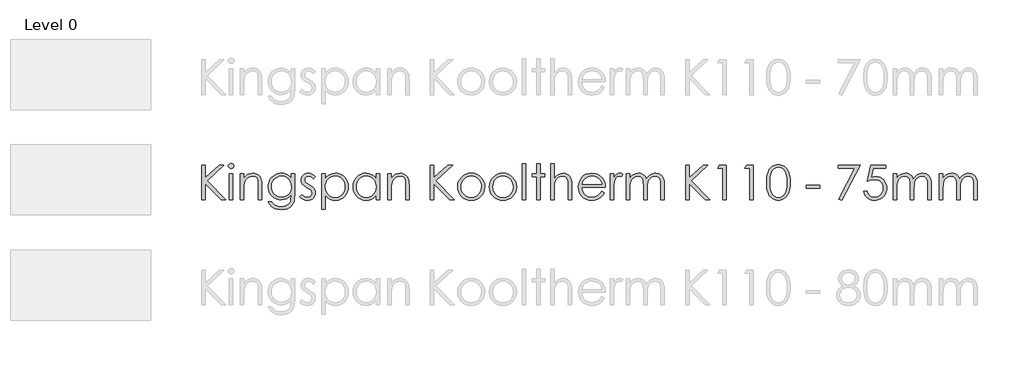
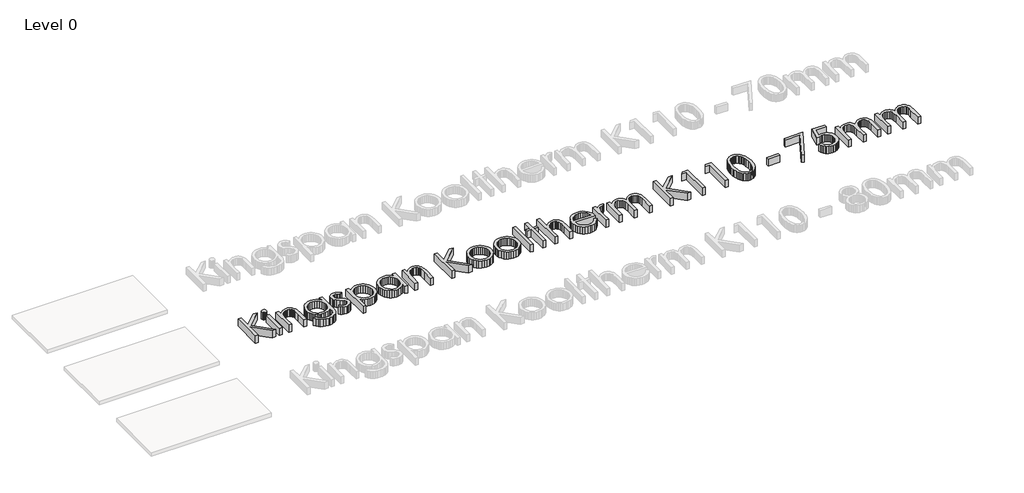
# One storey, part 7 of 9: 1 proxy.
"""IFC4 building model written with IfcOpenShell, lengths in millimetres."""

from ifc_helpers import new_model, si_unit, origin, origin_with_axes, place, context, project, spatial, polyline, outline, extrude, element, save

model = new_model("IFC4")

# Units and contexts
model_context = context("Model", 3, world=origin())
ifc_project = project(units=[si_unit("LENGTHUNIT", "METRE", prefix="MILLI")], contexts=[model_context])

# Site, building, storey
site = spatial("IfcSite", under=ifc_project)
building = spatial("IfcBuilding", under=site)
storey = spatial("IfcBuildingStorey", under=building, Name="Level 0", Elevation=0.0)

# Proxy
placement = place(None, origin())
element("IfcBuildingElementProxy", 1, Name="600mm KI_CenturyGothic", ObjectType="600mm KI_CenturyGothic", at=placement, inside=storey, context=model_context, shape_type="SweptSolid", body=[
    extrude(outline(polyline([(-3852.2663848, 2300.8965983), (-3792.944575, 2300.8965983), (-3792.944575, 2081.683973), (-3555.1938841, 2300.8965983), (-3471.6181051, 2300.8965983), (-3760.9664119, 2033.9484541), (-3441.9572002, 1707.6785001), (-3520.8984627, 1707.6785001), (-3792.944575, 1985.9039675), (-3792.944575, 1707.6785001), (-3852.2663848, 1707.6785001), (-3852.2663848, 2300.8965983)])), origin_with_axes(), (0.0, 0.0, 1.0), 150.0),
    extrude(outline(polyline([(-3348.1854852, 2330.5575033), (-3329.145347, 2327.2747208), (-3313.1176445, 2317.4263735), (-3302.226531, 2302.9821307), (-3298.5961598, 2285.911662), (-3302.226531, 2269.0729191), (-3313.1176445, 2254.7059183), (-3329.145347, 2244.857571), (-3348.1854852, 2241.5747885), (-3366.9938975, 2244.857571), (-3382.9443581, 2254.7059183), (-3393.8354717, 2269.0729191), (-3397.4658428, 2285.911662), (-3393.8354717, 2302.9821307), (-3382.9443581, 2317.4263735), (-3366.9938975, 2327.2747208), (-3348.1854852, 2330.5575033)])), origin_with_axes(), (0.0, 0.0, 1.0), 150.0),
    extrude(outline(polyline([(-3377.6919062, 2152.5920738), (-3318.3700964, 2152.5920738), (-3318.3700964, 1707.6785001), (-3377.6919062, 1707.6785001), (-3377.6919062, 2152.5920738)])), origin_with_axes(), (0.0, 0.0, 1.0), 150.0),
    extrude(outline(polyline([(-3189.8395084, 2152.5920738), (-3130.5176986, 2152.5920738), (-3130.5176986, 2073.4963274), (-3096.9946967, 2113.0055796), (-3060.0730495, 2140.696815), (-3019.7141359, 2157.0334853), (-2975.879335, 2162.4790421), (-2953.4357238, 2160.9004099), (-2932.2955704, 2156.1645135), (-2912.4588747, 2148.2713528), (-2893.9256368, 2137.2209277), (-2877.212412, 2123.4960006), (-2862.835756, 2107.5793333), (-2841.0921499, 2069.1707787), (-2833.6238199, 2044.7912914), (-2828.2892984, 2014.4448643), (-2824.0216812, 1935.8511905), (-2824.0216812, 1707.6785001), (-2883.343491, 1707.6785001), (-2883.343491, 1920.8662542), (-2883.343491, 2023.907002), (-2884.7290183, 2044.7043943), (-2889.8125035, 2062.7596977), (-2898.2849788, 2078.0729123), (-2910.1464442, 2090.644038), (-2924.7403432, 2100.4441091), (-2941.4101193, 2107.4441599), (-2980.977303, 2113.0442006), (-3005.3471351, 2110.8862539), (-3028.4038541, 2104.4124138), (-3050.1474602, 2093.6226803), (-3070.5779533, 2078.5170534), (-3088.6622225, 2060.2348518), (-3103.3671568, 2039.915394), (-3114.6927562, 2017.55868), (-3122.6390208, 1993.1647099), (-3128.5480292, 1946.0857475), (-3130.5176986, 1871.5858965), (-3130.5176986, 1707.6785001), (-3189.8395084, 1707.6785001), (-3189.8395084, 2152.5920738)])), origin_with_axes(), (0.0, 0.0, 1.0), 150.0),
    extrude(outline(polyline([(-2319.7862977, 2152.5920738), (-2260.4644879, 2152.5920738), (-2260.4644879, 1801.604699), (-2264.5196897, 1721.3503235), (-2269.588692, 1690.5500999), (-2276.6852953, 1665.9678526), (-2289.9371156, 1637.3545415), (-2307.2924139, 1612.2267729), (-2328.7511904, 1590.5845469), (-2354.3134448, 1572.4278634), (-2383.3226209, 1558.0656902), (-2415.122162, 1547.8069951), (-2449.7120682, 1541.651778), (-2487.0923395, 1539.6000389), (-2541.0458345, 1543.6166198), (-2589.206184, 1555.6663624), (-2630.260275, 1574.4940853), (-2662.8949946, 1598.8446068), (-2690.2000204, 1632.1938144), (-2715.2650299, 1678.0175952), (-2655.94322, 1678.0175952), (-2642.4355358, 1656.848476), (-2627.0933555, 1638.6048954), (-2609.9166791, 1623.2868532), (-2590.9055067, 1610.8943494), (-2569.7894914, 1601.3308318), (-2546.2982864, 1594.4997477), (-2492.1903075, 1589.0348805), (-2438.5071593, 1594.3645743), (-2415.083541, 1601.0266916), (-2393.93856, 1610.3536559), (-2359.6624492, 1634.3952097), (-2336.8567664, 1663.8823202), (-2329.3884364, 1682.5217658), (-2324.0539149, 1706.2302137), (-2319.7862977, 1768.8541165), (-2319.7862977, 1791.5632468), (-2354.757586, 1755.7809182), (-2396.6420279, 1729.3834852), (-2443.392712, 1713.1047464), (-2492.9627269, 1707.6785001), (-2522.4063889, 1709.5757553), (-2550.9521133, 1715.2675207), (-2578.5999001, 1724.7537964), (-2605.3497494, 1738.0345825), (-2630.1540674, 1754.5257366), (-2651.9652601, 1773.6431168), (-2670.7833277, 1795.3867228), (-2686.6082702, 1819.7565549), (-2699.1456025, 1846.0719183), (-2708.1008399, 1873.6521184), (-2713.4739824, 1902.4971553), (-2715.2650299, 1932.607029), (-2713.3967404, 1962.8955247), (-2707.7918722, 1992.1219437), (-2698.4504251, 2020.286286), (-2685.3723991, 2047.3885517), (-2668.9971079, 2072.5742517), (-2649.7638648, 2094.9888971), (-2627.67267, 2114.632488), (-2602.7235235, 2131.5050242), (-2575.9833294, 2145.056157), (-2548.5189922, 2154.7355376), (-2520.3305117, 2160.543166), (-2491.4178881, 2162.4790421), (-2444.5320306, 2157.5355579), (-2400.8903346, 2142.7051055), (-2359.6045177, 2116.1338782), (-2319.7862977, 2075.9680694), (-2319.7862977, 2152.5920738)]), holes=[polyline([(-2484.1571458, 2113.0442006), (-2529.0154023, 2107.0193293), (-2570.5908765, 2088.9447153), (-2606.2187212, 2060.2300242), (-2633.2340897, 2022.2849212), (-2650.2659375, 1978.0059792), (-2655.94322, 1930.2897708), (-2653.0080263, 1894.3770964), (-2644.2024452, 1861.7182387), (-2629.5264766, 1832.3131977), (-2608.9801206, 1806.1619734), (-2583.7606272, 1784.703197), (-2555.0652466, 1769.3754996), (-2522.8939786, 1760.1788811), (-2487.2468234, 1757.1133416), (-2451.3244937, 1760.154743), (-2419.1001219, 1769.2789472), (-2390.573708, 1784.4859541), (-2365.7452519, 1805.7757637), (-2345.6382095, 1832.0187128), (-2331.2760363, 1862.0851379), (-2322.6587323, 1895.975039), (-2319.7862977, 1933.6884162), (-2325.0773706, 1982.3894593), (-2340.9505892, 2025.6063246), (-2366.4983608, 2061.8327944), (-2400.8130926, 2089.5626508), (-2440.9982119, 2107.1738131), (-2484.1571458, 2113.0442006)])]), origin_with_axes(), (0.0, 0.0, 1.0), 150.0),
    extrude(outline(polyline([(-1904.5336289, 2101.3034257), (-1940.9918246, 2063.609359), (-1962.9575012, 2085.2371022), (-1984.6721416, 2100.6854902), (-2006.1357456, 2109.954523), (-2027.3483133, 2113.0442006), (-2052.181597, 2108.3710632), (-2073.2300256, 2094.3516511), (-2087.5970264, 2074.1142629), (-2092.3860267, 2050.787197), (-2088.4466878, 2029.2366958), (-2076.628671, 2008.7675817), (-2052.0657341, 1986.599145), (-2010.2006027, 1960.877579), (-1958.3326401, 1928.0111336), (-1939.8428507, 1912.1861912), (-1926.315856, 1896.7667689), (-1909.9791857, 1864.0934284), (-1904.5336289, 1827.5579908), (-1906.9474396, 1801.4115941), (-1914.1888714, 1777.3507299), (-1926.2579245, 1755.375398), (-1943.1545989, 1735.4855985), (-1963.6719892, 1718.9944443), (-1986.6031901, 1707.2150485), (-2011.9482016, 1700.147411), (-2039.7070237, 1697.7915318), (-2077.4397114, 1701.6729393), (-2113.3958344, 1713.3171617), (-2145.4512394, 1731.7972958), (-2171.4817731, 1756.1864383), (-2135.7959969, 1796.6612148), (-2114.0041146, 1775.0334717), (-2091.5749863, 1759.5850837), (-2068.5086121, 1750.3160509), (-2044.8049918, 1747.2263733), (-2013.637869, 1752.8650349), (-1987.4914724, 1769.7810198), (-1969.7644472, 1794.3439566), (-1963.8554388, 1822.9234744), (-1967.7561567, 1846.7139919), (-1979.4583106, 1867.7237995), (-2005.0253927, 1889.4287846), (-2050.2119275, 1916.2317378), (-2099.762632, 1946.8967879), (-2117.441381, 1962.0555186), (-2130.3890611, 1977.0983864), (-2146.3781427, 2009.2310334), (-2151.7078365, 2045.689229), (-2149.5305794, 2069.7356104), (-2142.9988078, 2091.6674937), (-2132.1125219, 2111.4848789), (-2116.8717217, 2129.187766), (-2098.309518, 2143.7526993), (-2077.4590218, 2154.1562231), (-2054.3202332, 2160.3983373), (-2028.8931521, 2162.4790421), (-1997.9481, 2158.6555661), (-1966.9064954, 2147.185138), (-1935.7683384, 2128.0677579), (-1904.5336289, 2101.3034257)])), origin_with_axes(), (0.0, 0.0, 1.0), 150.0),
    extrude(outline(polyline([(-1795.7769776, 2152.5920738), (-1736.4551678, 2152.5920738), (-1736.4551678, 2071.4880369), (-1700.9238754, 2111.7310876), (-1660.4490989, 2140.0788795), (-1614.9922173, 2156.8790014), (-1564.5146096, 2162.4790421), (-1520.0618732, 2158.2403906), (-1478.9305402, 2145.5244363), (-1441.1206107, 2124.331179), (-1406.6320845, 2094.6606189), (-1377.9077381, 2059.0231189), (-1357.3903478, 2019.929042), (-1345.0799137, 1977.3783884), (-1340.9764356, 1931.371158), (-1345.0412927, 1884.4708176), (-1357.235864, 1841.2491246), (-1377.5601494, 1801.706079), (-1406.014149, 1765.8416808), (-1440.2130179, 1736.0697406), (-1477.7719111, 1714.8040691), (-1518.6908288, 1702.0446661), (-1562.9697708, 1697.7915318), (-1612.6170277, 1703.256399), (-1658.0545988, 1719.6510008), (-1699.3211052, 1746.8980951), (-1736.4551678, 1784.92044), (-1736.4551678, 1549.4870072), (-1795.7769776, 1549.4870072), (-1795.7769776, 2152.5920738)]), holes=[polyline([(-1568.5311905, 2113.0442006), (-1602.5852307, 2109.7469353), (-1633.8392507, 2099.8551393), (-1662.2932503, 2083.3688128), (-1687.9472295, 2060.2879556), (-1709.1694525, 2032.3022353), (-1724.3281832, 2001.1013192), (-1733.4234216, 1966.6852074), (-1736.4551678, 1929.0538998), (-1731.048232, 1880.1983728), (-1714.8274246, 1836.5180558), (-1688.5265441, 1799.6736505), (-1652.8793888, 1771.3258586), (-1611.4390881, 1753.2512446), (-1567.7587711, 1747.2263733), (-1525.0632888, 1753.2898656), (-1485.0326535, 1771.4803424), (-1450.2544701, 1800.5812433), (-1423.3163435, 1839.3760076), (-1406.05277, 1884.0411593), (-1400.2982454, 1930.7532225), (-1405.9948385, 1977.6970114), (-1423.0846177, 2022.1304373), (-1449.8103289, 2060.4810605), (-1484.414718, 2089.1764411), (-1524.7157001, 2107.0772607), (-1568.5311905, 2113.0442006)])]), origin_with_axes(), (0.0, 0.0, 1.0), 150.0),
    extrude(outline(polyline([(-807.0801472, 2152.5920738), (-807.0801472, 1707.6785001), (-866.401957, 1707.6785001), (-866.401957, 1783.5300851), (-903.4780882, 1745.6815345), (-944.8797679, 1718.9558233), (-990.4525125, 1703.0826047), (-1040.0418379, 1697.7915318), (-1084.3159523, 1702.0446661), (-1125.2203871, 1714.8040691), (-1162.7551422, 1736.0697406), (-1196.9202178, 1765.8416808), (-1225.340424, 1801.706079), (-1245.6405713, 1841.2491246), (-1257.8206597, 1884.4708176), (-1261.8806892, 1931.371158), (-1257.7820388, 1977.3783884), (-1245.4860875, 2019.929042), (-1224.9928353, 2059.0231189), (-1196.3022822, 2094.6606189), (-1161.8475494, 2124.331179), (-1124.061758, 2145.5244363), (-1082.9449079, 2158.2403906), (-1038.4969991, 2162.4790421), (-987.7490446, 2156.8790014), (-942.0990581, 2140.0788795), (-921.2051134, 2127.3918909), (-901.6242816, 2111.7310876), (-866.401957, 2071.4880369), (-866.401957, 2152.5920738), (-807.0801472, 2152.5920738)]), holes=[polyline([(-1034.3259343, 2113.0442006), (-1078.1414247, 2107.0772607), (-1118.4424068, 2089.1764411), (-1153.0467959, 2060.4810605), (-1179.7725071, 2022.1304373), (-1196.8622863, 1977.6970114), (-1202.5588794, 1930.7532225), (-1196.8043548, 1884.0411593), (-1179.5407813, 1839.3760076), (-1152.6026548, 1800.5812433), (-1117.8244713, 1771.4803424), (-1077.6779731, 1753.2898656), (-1034.6349021, 1747.2263733), (-991.0125165, 1753.2512446), (-949.7460102, 1771.3258586), (-914.2726493, 1799.6736505), (-888.0297002, 1836.5180558), (-871.8088928, 1880.1983728), (-866.401957, 1929.0538998), (-869.4337032, 1966.6852074), (-878.5289416, 2001.1013192), (-893.6876723, 2032.3022353), (-914.9098953, 2060.2879556), (-940.5638746, 2083.3688128), (-969.0178742, 2099.8551393), (-1000.2718941, 2109.7469353), (-1034.3259343, 2113.0442006)])]), origin_with_axes(), (0.0, 0.0, 1.0), 150.0),
    extrude(outline(polyline([(-668.662591, 2152.5920738), (-609.3407811, 2152.5920738), (-609.3407811, 2073.4963274), (-575.8177792, 2113.0055796), (-538.896132, 2140.696815), (-498.5372184, 2157.0334853), (-454.7024175, 2162.4790421), (-432.2588064, 2160.9004099), (-411.1186529, 2156.1645135), (-391.2819572, 2148.2713528), (-372.7487193, 2137.2209277), (-356.0354946, 2123.4960006), (-341.6588385, 2107.5793333), (-319.9152324, 2069.1707787), (-312.4469024, 2044.7912914), (-307.1123809, 2014.4448643), (-302.8447637, 1935.8511905), (-302.8447637, 1707.6785001), (-362.1665735, 1707.6785001), (-362.1665735, 1920.8662542), (-362.1665735, 2023.907002), (-363.5521008, 2044.7043943), (-368.635586, 2062.7596977), (-377.1080613, 2078.0729123), (-388.9695267, 2090.644038), (-403.5634257, 2100.4441091), (-420.2332018, 2107.4441599), (-459.8003855, 2113.0442006), (-484.1702176, 2110.8862539), (-507.2269366, 2104.4124138), (-528.9705427, 2093.6226803), (-549.4010358, 2078.5170534), (-567.485305, 2060.2348518), (-582.1902393, 2039.915394), (-593.5158387, 2017.55868), (-601.4621033, 1993.1647099), (-607.3711117, 1946.0857475), (-609.3407811, 1871.5858965), (-609.3407811, 1707.6785001), (-668.662591, 1707.6785001), (-668.662591, 2152.5920738)])), origin_with_axes(), (0.0, 0.0, 1.0), 150.0),
    extrude(outline(polyline([(62.9730635, 2300.8965983), (122.2948734, 2300.8965983), (122.2948734, 2081.683973), (360.0455643, 2300.8965983), (443.6213432, 2300.8965983), (154.2730365, 2033.9484541), (473.2822481, 1707.6785001), (394.3409856, 1707.6785001), (122.2948734, 1985.9039675), (122.2948734, 1707.6785001), (62.9730635, 1707.6785001), (62.9730635, 2300.8965983)])), origin_with_axes(), (0.0, 0.0, 1.0), 150.0),
    extrude(outline(polyline([(760.1588128, 2162.4790421), (809.4681362, 2157.8541809), (854.3553585, 2143.9795975), (894.8204798, 2120.8552917), (930.8635, 2088.4812637), (957.7630055, 2053.2492839), (976.9769381, 2014.908316), (988.5052976, 1973.45836), (992.3480841, 1928.8994159), (988.283227, 1884.0846079), (976.0886558, 1842.1760279), (955.7643703, 1803.1736759), (927.3103707, 1767.0775519), (892.4742558, 1736.7649181), (853.0036246, 1715.1130368), (808.8984769, 1702.1219081), (760.1588128, 1697.7915318), (711.2839754, 1702.1219081), (667.0822753, 1715.1130368), (627.5537126, 1736.7649181), (592.6982872, 1767.0775519), (564.2442876, 1803.1736759), (543.9200022, 1842.1760279), (531.7254309, 1884.0846079), (527.6605738, 1928.8994159), (531.5033603, 1973.2652551), (543.0317198, 2014.5993482), (562.2456524, 2052.9016951), (589.145158, 2088.1722959), (625.2074886, 2120.6814974), (665.7305413, 2143.9023555), (710.7143161, 2157.8348705), (760.1588128, 2162.4790421)]), holes=[polyline([(760.004329, 2113.0442006), (725.7282181, 2109.6696933), (693.9624704, 2099.5461716), (664.7070856, 2082.6736353), (637.962064, 2059.0520846), (615.6584538, 2030.6415336), (599.7273037, 1999.4019965), (590.1686137, 1965.3334734), (586.9823836, 1928.4359643), (592.7948396, 1880.7004454), (610.2322075, 1836.3635719), (637.5758543, 1798.5729529), (673.1071466, 1770.4761972), (714.6439998, 1753.0388293), (760.004329, 1747.2263733), (805.3646581, 1753.0388293), (846.9015113, 1770.4761972), (882.4328037, 1798.5729529), (909.7764504, 1836.3635719), (927.2138183, 1880.7004454), (933.0262743, 1928.4359643), (929.8255614, 1965.3334734), (920.2234227, 1999.4019965), (904.2198583, 2030.6415336), (881.8148681, 2059.0520846), (854.9974321, 2082.6736353), (825.7565303, 2099.5461716), (794.0921625, 2109.6696933), (760.004329, 2113.0442006)])]), origin_with_axes(), (0.0, 0.0, 1.0), 150.0),
    extrude(outline(polyline([(1303.9420695, 2162.4790421), (1353.2513929, 2157.8541809), (1398.1386152, 2143.9795975), (1438.6037365, 2120.8552917), (1474.6467567, 2088.4812637), (1501.5462622, 2053.2492839), (1520.7601948, 2014.908316), (1532.2885543, 1973.45836), (1536.1313408, 1928.8994159), (1532.0664837, 1884.0846079), (1519.8719125, 1842.1760279), (1499.547627, 1803.1736759), (1471.0936274, 1767.0775519), (1436.2575126, 1736.7649181), (1396.7868813, 1715.1130368), (1352.6817336, 1702.1219081), (1303.9420695, 1697.7915318), (1255.0672321, 1702.1219081), (1210.865532, 1715.1130368), (1171.3369693, 1736.7649181), (1136.4815439, 1767.0775519), (1108.0275443, 1803.1736759), (1087.7032589, 1842.1760279), (1075.5086876, 1884.0846079), (1071.4438305, 1928.8994159), (1075.286617, 1973.2652551), (1086.8149766, 2014.5993482), (1106.0289091, 2052.9016951), (1132.9284147, 2088.1722959), (1168.9907453, 2120.6814974), (1209.5137981, 2143.9023555), (1254.4975728, 2157.8348705), (1303.9420695, 2162.4790421)]), holes=[polyline([(1303.7875857, 2113.0442006), (1269.5114748, 2109.6696933), (1237.7457271, 2099.5461716), (1208.4903423, 2082.6736353), (1181.7453207, 2059.0520846), (1159.4417105, 2030.6415336), (1143.5105604, 1999.4019965), (1133.9518704, 1965.3334734), (1130.7656404, 1928.4359643), (1136.5780963, 1880.7004454), (1154.0154643, 1836.3635719), (1181.359111, 1798.5729529), (1216.8904033, 1770.4761972), (1258.4272565, 1753.0388293), (1303.7875857, 1747.2263733), (1349.1479149, 1753.0388293), (1390.684768, 1770.4761972), (1426.2160604, 1798.5729529), (1453.5597071, 1836.3635719), (1470.997075, 1880.7004454), (1476.809531, 1928.4359643), (1473.6088181, 1965.3334734), (1464.0066795, 1999.4019965), (1448.003115, 2030.6415336), (1425.5981249, 2059.0520846), (1398.7806889, 2082.6736353), (1369.539787, 2099.5461716), (1337.8754193, 2109.6696933), (1303.7875857, 2113.0442006)])]), origin_with_axes(), (0.0, 0.0, 1.0), 150.0),
    extrude(outline(polyline([(1635.0010238, 2320.6705349), (1694.3228337, 2320.6705349), (1694.3228337, 1707.6785001), (1635.0010238, 1707.6785001), (1635.0010238, 2320.6705349)])), origin_with_axes(), (0.0, 0.0, 1.0), 150.0),
    extrude(outline(polyline([(1882.1752314, 2320.6705349), (1941.4970413, 2320.6705349), (1941.4970413, 2152.5920738), (2020.5927877, 2152.5920738), (2020.5927877, 2103.1572323), (1941.4970413, 2103.1572323), (1941.4970413, 1707.6785001), (1882.1752314, 1707.6785001), (1882.1752314, 2103.1572323), (1803.079485, 2103.1572323), (1803.079485, 2152.5920738), (1882.1752314, 2152.5920738), (1882.1752314, 2320.6705349)])), origin_with_axes(), (0.0, 0.0, 1.0), 150.0),
    extrude(outline(polyline([(2119.4624707, 2320.6705349), (2178.7842806, 2320.6705349), (2178.7842806, 2071.9514886), (2212.5583188, 2111.6538456), (2249.6151394, 2139.9243956), (2289.9161216, 2156.8403805), (2333.4226442, 2162.4790421), (2355.8662553, 2160.9004099), (2377.0064088, 2156.1645135), (2396.8431044, 2148.2713528), (2415.3763424, 2137.2209277), (2432.0895671, 2123.5104834), (2446.4662232, 2107.6372648), (2468.2098293, 2069.4025045), (2475.6781593, 2045.0954316), (2481.0126808, 2014.7345216), (2485.280298, 1935.8511905), (2485.280298, 1707.6785001), (2425.9584882, 1707.6785001), (2425.9584882, 1920.8662542), (2424.5681332, 1985.247411), (2420.3970685, 2023.907002), (2406.879729, 2062.7596977), (2397.1665551, 2078.0729123), (2385.4837117, 2090.644038), (2371.840854, 2100.4441091), (2356.2476374, 2107.4441599), (2319.2101273, 2113.0442006), (2296.3416854, 2110.8862539), (2274.6994594, 2104.4124138), (2254.2834492, 2093.6226803), (2235.0936547, 2078.5170534), (2218.1052556, 2060.2348518), (2204.2934312, 2039.915394), (2193.6581816, 2017.55868), (2186.1995068, 1993.1647099), (2180.6380871, 1946.3174733), (2178.7842806, 1871.5858965), (2178.7842806, 1707.6785001), (2119.4624707, 1707.6785001), (2119.4624707, 2320.6705349)])), origin_with_axes(), (0.0, 0.0, 1.0), 150.0),
    extrude(outline(polyline([(2991.0605203, 1855.9830247), (3038.950523, 1830.8021523), (3013.3255094, 1788.9177104), (2984.0315038, 1755.9547125), (2950.952643, 1730.8703926), (2913.9730643, 1712.6219843), (2872.4941426, 1701.4991449), (2825.9172528, 1697.7915318), (2774.4258447, 1702.2232881), (2728.8627554, 1715.518557), (2689.227985, 1737.6773385), (2655.5215335, 1768.6996326), (2628.6220279, 1805.3026569), (2609.4080954, 1844.2036288), (2597.8797358, 1885.4025485), (2594.0369493, 1928.8994159), (2597.3197318, 1969.7797126), (2607.1680791, 2008.381372), (2623.5819913, 2044.7043943), (2646.5614684, 2078.7487793), (2682.7493173, 2115.3807692), (2724.5758277, 2141.5464764), (2772.0409998, 2157.2459007), (2825.1448334, 2162.4790421), (2879.7935059, 2157.1107273), (2928.6490329, 2141.0057828), (2971.7114143, 2114.1642087), (3008.9806503, 2076.5860049), (3030.4539096, 2044.414737), (3045.9022976, 2008.458614), (3055.3258143, 1968.7176359), (3058.7244596, 1925.1918028), (2653.3587591, 1925.1918028), (2657.095338, 1887.9370497), (2666.6057518, 1854.1871496), (2681.8900007, 1823.9421025), (2702.9480845, 1797.2019084), (2728.3124066, 1775.3376118), (2756.5153699, 1759.7202571), (2787.5569744, 1750.3498443), (2821.4372203, 1747.2263733), (2854.9602222, 1750.238809), (2887.5563208, 1759.2761159), (2917.2944677, 1773.3148385), (2942.2436143, 1791.331521), (2965.725164, 1817.4972281), (2991.0605203, 1855.9830247)]), holes=[polyline([(2999.4026498, 1974.6266443), (2984.9777175, 2017.1483322), (2965.1844704, 2050.1692615), (2939.0766947, 2075.6977226), (2905.7081767, 2095.742006), (2867.7630738, 2108.7186519), (2827.9255433, 2113.0442006), (2795.503239, 2110.3310774), (2765.4368139, 2102.191708), (2737.726268, 2088.6260923), (2712.3716012, 2069.6342304), (2695.8321708, 2051.820308), (2681.4362043, 2030.0477362), (2669.1837016, 2004.316515), (2659.0746627, 1974.6266443), (2999.4026498, 1974.6266443)])]), origin_with_axes(), (0.0, 0.0, 1.0), 150.0),
    extrude(outline(polyline([(3137.820206, 2152.5920738), (3197.1420159, 2152.5920738), (3197.1420159, 2088.1722959), (3222.6897875, 2121.2125357), (3249.589293, 2144.3271862), (3277.7632906, 2157.9410781), (3307.1345382, 2162.4790421), (3330.4616041, 2158.694187), (3355.3335087, 2147.3396219), (3325.8270877, 2105.3200066), (3297.2475699, 2113.0442006), (3270.8308265, 2107.0965712), (3245.3409863, 2089.2536831), (3223.2884125, 2058.8976007), (3207.183468, 2015.4103886), (3199.6523789, 1957.2858288), (3197.1420159, 1859.8451217), (3197.1420159, 1707.6785001), (3137.820206, 1707.6785001), (3137.820206, 2152.5920738)])), origin_with_axes(), (0.0, 0.0, 1.0), 150.0),
    extrude(outline(polyline([(3414.6553185, 2152.5920738), (3473.9771284, 2152.5920738), (3473.9771284, 2076.4315211), (3503.5607913, 2112.9283377), (3533.9168737, 2138.0705891), (3577.3268439, 2156.3769288), (3622.8995884, 2162.4790421), (3653.7384329, 2159.331433), (3682.9165757, 2149.8886059), (3708.6767627, 2135.2126373), (3729.2617397, 2116.365604), (3746.0425511, 2090.9336953), (3760.3902414, 2056.5031006), (3775.16759, 2080.9018983), (3791.6925376, 2102.191708), (3809.965084, 2120.3725296), (3829.9852293, 2135.4443631), (3851.2798666, 2147.2720352), (3873.375889, 2155.7203723), (3896.2732965, 2160.7893747), (3919.9720892, 2162.4790421), (3962.3006723, 2156.6665861), (3981.4952943, 2149.4010161), (3999.3768034, 2139.2292182), (4015.4914031, 2126.46016), (4029.385297, 2111.4028093), (4050.5109676, 2074.4232306), (4057.8103309, 2051.0478886), (4063.0241619, 2022.4780261), (4067.1952266, 1949.7547397), (4067.1952266, 1707.6785001), (4007.8734168, 1707.6785001), (4007.8734168, 1953.3078689), (4005.4209852, 2014.4255538), (3998.0636904, 2052.8727294), (3984.7587663, 2077.3391139), (3964.4634466, 2096.5144254), (3938.3942919, 2108.9117568), (3907.7678627, 2113.0442006), (3888.1194443, 2111.4945341), (3869.3399976, 2106.8455349), (3834.3880198, 2088.2495379), (3805.6540182, 2059.3031209), (3785.8800816, 2022.0531954), (3779.1889985, 1997.8957787), (3774.4096535, 1966.8252084), (3770.5861775, 1883.9446069), (3770.5861775, 1707.6785001), (3711.2643677, 1707.6785001), (3711.2643677, 1938.0139648), (3708.850557, 2006.469634), (3701.6091252, 2048.7016647), (3688.3621325, 2074.9446137), (3667.9316394, 2095.4330383), (3641.6114484, 2108.64141), (3610.6953619, 2113.0442006), (3573.7544042, 2107.0000188), (3539.2465676, 2088.8674734), (3510.2808401, 2060.500371), (3489.9662099, 2023.7525181), (3477.9743988, 1971.9231764), (3473.9771284, 1898.3116077), (3473.9771284, 1707.6785001), (3414.6553185, 1707.6785001), (3414.6553185, 2152.5920738)])), origin_with_axes(), (0.0, 0.0, 1.0), 150.0),
    extrude(outline(polyline([(4433.0130538, 2300.8965983), (4492.3348637, 2300.8965983), (4492.3348637, 2081.683973), (4730.0855546, 2300.8965983), (4813.6613335, 2300.8965983), (4524.3130268, 2033.9484541), (4843.3222385, 1707.6785001), (4764.3809759, 1707.6785001), (4492.3348637, 1985.9039675), (4492.3348637, 1707.6785001), (4433.0130538, 1707.6785001), (4433.0130538, 2300.8965983)])), origin_with_axes(), (0.0, 0.0, 1.0), 150.0),
    extrude(outline(polyline([(5010.6282802, 2300.8965983), (5125.1008351, 2300.8965983), (5125.1008351, 1707.6785001), (5065.7790253, 1707.6785001), (5065.7790253, 2251.4617568), (4976.7963106, 2251.4617568), (5010.6282802, 2300.8965983)])), origin_with_axes(), (0.0, 0.0, 1.0), 150.0),
    extrude(outline(polyline([(5475.3157905, 2300.8965983), (5589.7883454, 2300.8965983), (5589.7883454, 1707.6785001), (5530.4665356, 1707.6785001), (5530.4665356, 2251.4617568), (5441.4838208, 2251.4617568), (5475.3157905, 2300.8965983)])), origin_with_axes(), (0.0, 0.0, 1.0), 150.0),
    extrude(outline(polyline([(5817.1886164, 2004.1330653), (5818.7672485, 2058.5644948), (5823.503145, 2106.4593252), (5831.3963057, 2147.8175564), (5842.4467307, 2182.6391884), (5856.374418, 2212.2807828), (5872.8993655, 2238.0989012), (5892.0215733, 2260.0935436), (5913.7410412, 2278.26471), (5937.4350063, 2292.4917098), (5962.4807053, 2302.6538525), (5988.8781382, 2308.7511381), (6016.6273051, 2310.7835666), (6044.8302684, 2308.7366552), (6071.6621873, 2302.595921), (6097.1230617, 2292.361364), (6121.2128917, 2278.0329841), (6143.3958113, 2259.6156091), (6163.1359546, 2237.1140665), (6180.4333215, 2210.5283563), (6195.2879121, 2179.8584786), (6207.2169642, 2144.3416691), (6215.7377157, 2103.2151637), (6220.8501666, 2056.4789625), (6222.5543169, 2004.1330653), (6220.8743047, 1951.9464797), (6215.8342681, 1905.3792452), (6207.4342071, 1864.4313618), (6195.6741218, 1829.1028296), (6180.9643599, 1798.5777805), (6163.7152692, 1772.0403465), (6143.9268497, 1749.4905277), (6121.5991014, 1730.928324), (6097.3403047, 1716.4309774), (6071.7587397, 1706.0757299), (6044.8544066, 1699.8625813), (6016.6273051, 1697.7915318), (5988.9022764, 1699.7998222), (5962.5772577, 1705.8246936), (5937.6522492, 1715.8661457), (5914.1272509, 1729.9241788), (5892.5526116, 1747.9601718), (5873.4786801, 1769.9355036), (5856.9054564, 1795.8501745), (5842.8329404, 1825.7041842), (5831.6135487, 1860.7237487), (5823.5996974, 1902.1350837), (5818.7913866, 1949.9381893), (5817.1886164, 2004.1330653)]), holes=[polyline([(5876.5104262, 2004.2875492), (5880.8939063, 1915.961391), (5886.3732564, 1880.9804475), (5894.0443466, 1852.1209277), (5903.8589006, 1827.8814414), (5915.7686422, 1806.7605985), (5929.7735714, 1788.7583989), (5945.8736882, 1773.8748426), (5981.1732547, 1753.8884906), (5999.5761469, 1748.8919027), (6018.4811117, 1747.2263733), (6037.4729737, 1748.8581093), (6055.8275896, 1753.7533172), (6090.6250835, 1773.334149), (6106.3824393, 1788.0101176), (6120.1315046, 1805.9302476), (6131.8722794, 1827.0945392), (6141.6047639, 1851.5029922), (6151.0669015, 1884.8618549), (6157.8255712, 1921.4455687), (6163.232507, 2004.2875492), (6158.4048858, 2085.8936587), (6152.3703592, 2120.5849449), (6143.9220221, 2151.2017189), (6133.3398763, 2177.864671), (6120.903924, 2200.6944918), (6106.6141651, 2219.6911814), (6090.4705997, 2234.8547397), (6055.402759, 2254.7252288), (6037.1736612, 2259.692851), (6018.4811117, 2261.3487251), (5999.4651116, 2259.692851), (5981.0380814, 2254.7252288), (5945.9509302, 2234.8547397), (5930.0052972, 2220.0435978), (5916.0776099, 2202.1041572), (5904.1678683, 2181.0364181), (5894.2760724, 2156.8403805), (5886.5036022, 2127.9856883), (5880.9518378, 2092.9419857), (5876.5104262, 2004.2875492)])]), origin_with_axes(), (0.0, 0.0, 1.0), 150.0),
    extrude(outline(polyline([(6499.3894294, 1954.8527077), (6726.7897004, 1954.8527077), (6726.7897004, 1905.4178662), (6499.3894294, 1905.4178662), (6499.3894294, 1954.8527077)])), origin_with_axes(), (0.0, 0.0, 1.0), 150.0),
    extrude(outline(polyline([(7043.1726861, 2300.8965983), (7418.8774816, 2300.8965983), (7102.4944959, 1697.7915318), (7048.5796219, 1720.1916944), (7327.2685409, 2251.4617568), (7043.1726861, 2251.4617568), (7043.1726861, 2300.8965983)])), origin_with_axes(), (0.0, 0.0, 1.0), 150.0),
    extrude(outline(polyline([(7853.904087, 2300.8965983), (7853.904087, 2251.4617568), (7646.5867204, 2251.4617568), (7612.1368152, 2090.4895541), (7649.7150189, 2099.9903127), (7683.3538838, 2103.1572323), (7722.9403779, 2099.7344488), (7758.8965009, 2089.4660984), (7791.2222528, 2072.3521811), (7819.9176335, 2048.3926969), (7843.4378041, 2019.0842083), (7860.2379261, 1985.923278), (7870.3179992, 1948.909906), (7873.6780236, 1908.0440921), (7871.9545628, 1879.0783647), (7866.7841805, 1851.3485083), (7858.1668766, 1824.8545229), (7846.1026511, 1799.5964086), (7831.0984042, 1776.3948609), (7813.6610363, 1756.0705754), (7793.7905473, 1738.6235523), (7771.4869371, 1724.0537914), (7747.054346, 1712.5640528), (7720.7969141, 1704.3570967), (7692.7146413, 1699.432923), (7662.8075277, 1697.7915318), (7627.4741679, 1700.5481035), (7595.008415, 1708.8178187), (7565.4102692, 1722.6006774), (7538.6797304, 1741.8966795), (7515.9271515, 1765.5665064), (7498.2628853, 1792.4708396), (7485.686932, 1822.609679), (7478.1992914, 1855.9830247), (7537.5211013, 1855.9830247), (7547.0991018, 1823.2517526), (7561.6205865, 1797.3563923), (7581.4524546, 1777.0417621), (7606.9616052, 1761.0526806), (7635.9852641, 1750.6829501), (7666.360657, 1747.2263733), (7695.6498351, 1750.1519118), (7722.8052045, 1758.9285272), (7747.8267654, 1773.5562196), (7770.7145178, 1794.0349889), (7789.8077598, 1818.9068935), (7803.4457898, 1846.7139919), (7811.6286078, 1877.456284), (7814.3562138, 1911.1337697), (7811.8941269, 1941.3208854), (7804.5078664, 1968.5438415), (7792.1974323, 1992.8026383), (7774.9628244, 2014.0972756), (7753.6054281, 2031.4332635), (7728.9266283, 2043.816112), (7700.9264251, 2051.245821), (7669.6048185, 2053.7223907), (7640.8997825, 2051.8685842), (7609.3174844, 2046.3071645), (7537.5211013, 2024.0614858), (7596.8429111, 2300.8965983), (7853.904087, 2300.8965983)])), origin_with_axes(), (0.0, 0.0, 1.0), 150.0),
    extrude(outline(polyline([(7982.4346749, 2152.5920738), (8041.7564848, 2152.5920738), (8041.7564848, 2076.4315211), (8071.3401477, 2112.9283377), (8101.6962301, 2138.0705891), (8145.1062003, 2156.3769288), (8190.6789448, 2162.4790421), (8221.5177893, 2159.331433), (8250.6959321, 2149.8886059), (8276.4561191, 2135.2126373), (8297.0410961, 2116.365604), (8313.8219075, 2090.9336953), (8328.1695978, 2056.5031006), (8342.9469464, 2080.9018983), (8359.471894, 2102.191708), (8377.7444404, 2120.3725296), (8397.7645856, 2135.4443631), (8419.0592229, 2147.2720352), (8441.1552454, 2155.7203723), (8464.0526529, 2160.7893747), (8487.7514456, 2162.4790421), (8530.0800287, 2156.6665861), (8549.2746507, 2149.4010161), (8567.1561598, 2139.2292182), (8583.2707595, 2126.46016), (8597.1646534, 2111.4028093), (8618.290324, 2074.4232306), (8625.5896873, 2051.0478886), (8630.8035182, 2022.4780261), (8634.974583, 1949.7547397), (8634.974583, 1707.6785001), (8575.6527732, 1707.6785001), (8575.6527732, 1953.3078689), (8573.2003416, 2014.4255538), (8565.8430468, 2052.8727294), (8552.5381227, 2077.3391139), (8532.242803, 2096.5144254), (8506.1736483, 2108.9117568), (8475.5472191, 2113.0442006), (8455.8988006, 2111.4945341), (8437.119354, 2106.8455349), (8402.1673762, 2088.2495379), (8373.4333746, 2059.3031209), (8353.659438, 2022.0531954), (8346.9683549, 1997.8957787), (8342.1890099, 1966.8252084), (8338.3655339, 1883.9446069), (8338.3655339, 1707.6785001), (8279.0437241, 1707.6785001), (8279.0437241, 1938.0139648), (8276.6299134, 2006.469634), (8269.3884816, 2048.7016647), (8256.1414889, 2074.9446137), (8235.7109958, 2095.4330383), (8209.3908048, 2108.64141), (8178.4747183, 2113.0442006), (8141.5337606, 2107.0000188), (8107.025924, 2088.8674734), (8078.0601965, 2060.500371), (8057.7455663, 2023.7525181), (8045.7537552, 1971.9231764), (8041.7564848, 1898.3116077), (8041.7564848, 1707.6785001), (7982.4346749, 1707.6785001), (7982.4346749, 2152.5920738)])), origin_with_axes(), (0.0, 0.0, 1.0), 150.0),
    extrude(outline(polyline([(8773.3921393, 2152.5920738), (8832.7139491, 2152.5920738), (8832.7139491, 2076.4315211), (8862.2976121, 2112.9283377), (8892.6536944, 2138.0705891), (8936.0636646, 2156.3769288), (8981.6364092, 2162.4790421), (9012.4752537, 2159.331433), (9041.6533964, 2149.8886059), (9067.4135834, 2135.2126373), (9087.9985604, 2116.365604), (9104.7793718, 2090.9336953), (9119.1270621, 2056.5031006), (9133.9044108, 2080.9018983), (9150.4293583, 2102.191708), (9168.7019047, 2120.3725296), (9188.72205, 2135.4443631), (9210.0166873, 2147.2720352), (9232.1127097, 2155.7203723), (9255.0101172, 2160.7893747), (9278.7089099, 2162.4790421), (9321.037493, 2156.6665861), (9340.232115, 2149.4010161), (9358.1136241, 2139.2292182), (9374.2282238, 2126.46016), (9388.1221177, 2111.4028093), (9409.2477883, 2074.4232306), (9416.5471516, 2051.0478886), (9421.7609826, 2022.4780261), (9425.9320473, 1949.7547397), (9425.9320473, 1707.6785001), (9366.6102375, 1707.6785001), (9366.6102375, 1953.3078689), (9364.1578059, 2014.4255538), (9356.8005111, 2052.8727294), (9343.495587, 2077.3391139), (9323.2002673, 2096.5144254), (9297.1311126, 2108.9117568), (9266.5046834, 2113.0442006), (9246.856265, 2111.4945341), (9228.0768183, 2106.8455349), (9193.1248405, 2088.2495379), (9164.3908389, 2059.3031209), (9144.6169023, 2022.0531954), (9137.9258192, 1997.8957787), (9133.1464742, 1966.8252084), (9129.3229982, 1883.9446069), (9129.3229982, 1707.6785001), (9070.0011884, 1707.6785001), (9070.0011884, 1938.0139648), (9067.5873778, 2006.469634), (9060.3459459, 2048.7016647), (9047.0989532, 2074.9446137), (9026.6684601, 2095.4330383), (9000.3482691, 2108.64141), (8969.4321827, 2113.0442006), (8932.4912249, 2107.0000188), (8897.9833883, 2088.8674734), (8869.0176608, 2060.500371), (8848.7030306, 2023.7525181), (8836.7112195, 1971.9231764), (8832.7139491, 1898.3116077), (8832.7139491, 1707.6785001), (8773.3921393, 1707.6785001), (8773.3921393, 2152.5920738)])), origin_with_axes(), (0.0, 0.0, 1.0), 150.0),
])

save(model, "model.ifc")
